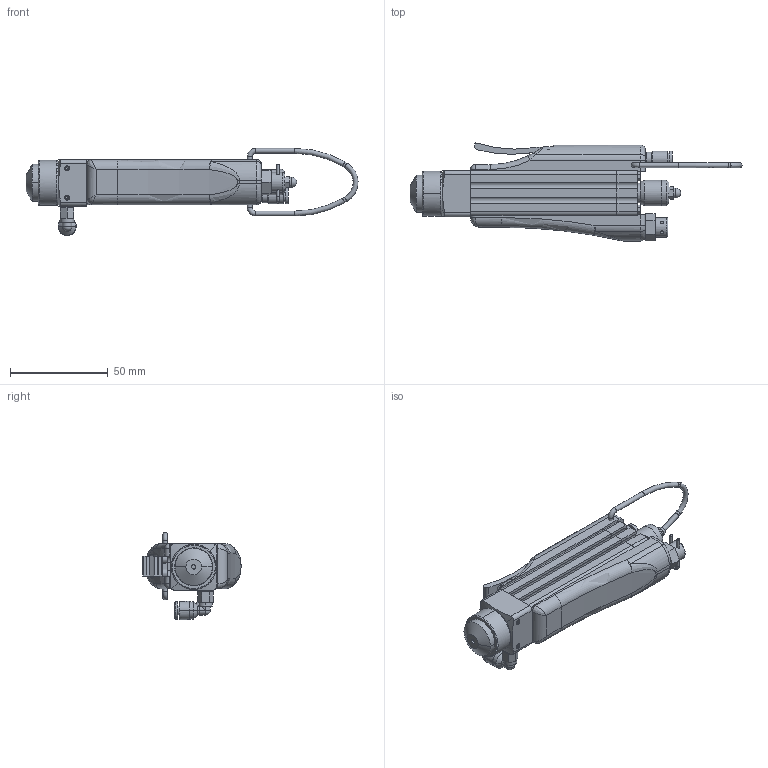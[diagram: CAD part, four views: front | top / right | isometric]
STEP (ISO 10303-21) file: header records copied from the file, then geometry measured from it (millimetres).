
FILE_DESCRIPTION (( 'STEP AP214' ), '1' );
FILE_NAME ('DAVS 200 MAN.STEP', '2024-10-11T10:23:41', ( '' ), ( '' ), 'SwSTEP 2.0', 'SolidWorks 2024', '' );
FILE_SCHEMA (( 'AUTOMOTIVE_DESIGN' ));
Length unit declared in the file: millimetre
Products named in the file (1): DAVS 200 MAN
Bounding box: 169.55 x 50.06 x 44.5 mm (x, y, z)
Surface area: 37114.7 mm2 (no closed solid volume)
Topology: 0 solids, 49 shells, 531 faces, 1410 edges, 916 vertices
Faces by surface type: plane 211, cylinder 113, bspline 110, torus 82, cone 9, sphere 6
Full cylindrical faces by diameter (mm): 1.4 x6, 2 x1, 2.5 x12, 4.5 x2, 5 x1, 6 x1, 7 x1, 8 x2, 10 x2, 13 x1, 13.01 x1
Entity records: 49977 total; most frequent: CARTESIAN_POINT 38498, ORIENTED_EDGE 2336, DIRECTION 1958, EDGE_CURVE 1309, VERTEX_POINT 886, AXIS2_PLACEMENT_3D 667, LINE 624, VECTOR 624
